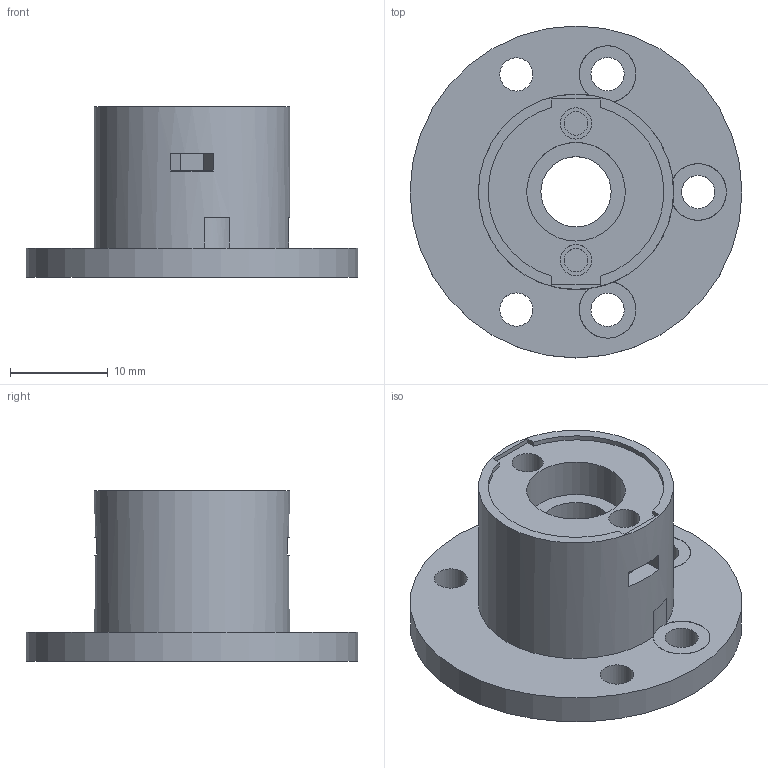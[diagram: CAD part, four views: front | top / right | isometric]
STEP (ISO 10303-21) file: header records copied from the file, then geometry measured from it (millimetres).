
FILE_DESCRIPTION(('Open CASCADE Model'),'2;1');
FILE_NAME('P05-yaw_body.step', '', ('Noah Wilson'), (''), '', '', '');
FILE_SCHEMA(('AUTOMOTIVE_DESIGN { 1 0 10303 214 1 1 1 1 }'));
Length unit declared in the file: millimetre
Products named in the file (1): COMPOUND
Bounding box: 34 x 34 x 17.5 mm (x, y, z)
Volume: 4952.9 mm3; surface area: 3874.2 mm2
Topology: 1 solids, 1 shells, 69 faces, 172 edges, 114 vertices
Faces by surface type: plane 47, cylinder 22
Full cylindrical faces by diameter (mm): 2.4 x4, 3.2 x2, 3.4 x5, 5.8 x3, 7.2 x1, 10.1 x2, 18.2 x1, 20 x1, 34 x1
Entity records: 4282 total; most frequent: CARTESIAN_POINT 768, DIRECTION 650, ORIENTED_EDGE 344, PCURVE 344, DEFINITIONAL_REPRESENTATION 344, LINE 324, VECTOR 324, EDGE_CURVE 172
